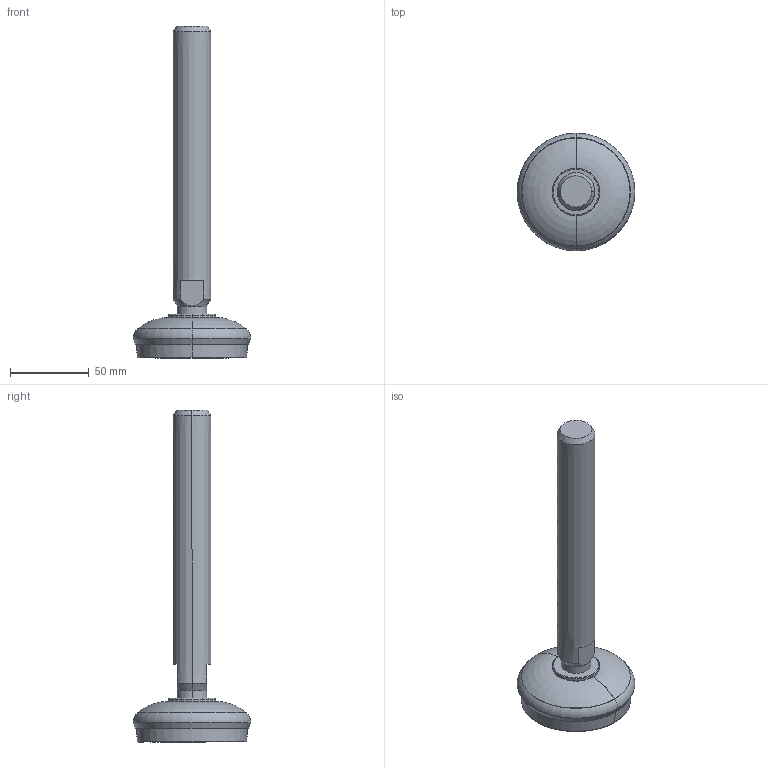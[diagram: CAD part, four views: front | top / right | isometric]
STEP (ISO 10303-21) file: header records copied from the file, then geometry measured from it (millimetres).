
FILE_DESCRIPTION (( 'STEP AP214' ), '1' );
FILE_NAME ('8567832.STEP', '2024-01-24T12:12:36', ( '' ), ( '' ), 'SwSTEP 2.0', 'SolidWorks 2022', '' );
FILE_SCHEMA (( 'AUTOMOTIVE_DESIGN' ));
Length unit declared in the file: millimetre
Products named in the file (1): 8567832
Bounding box: 74.99 x 74.99 x 211.37 mm (x, y, z)
Volume: 174827.4 mm3; surface area: 42531.7 mm2
Topology: 4 solids, 4 shells, 120 faces, 240 edges, 142 vertices
Faces by surface type: cone 38, torus 34, plane 26, cylinder 22
Entity records: 4575 total; most frequent: DIRECTION 652, CARTESIAN_POINT 549, ORIENTED_EDGE 480, AXIS2_PLACEMENT_3D 293, EDGE_CURVE 240, CIRCLE 172, VERTEX_POINT 142, EDGE_LOOP 138
